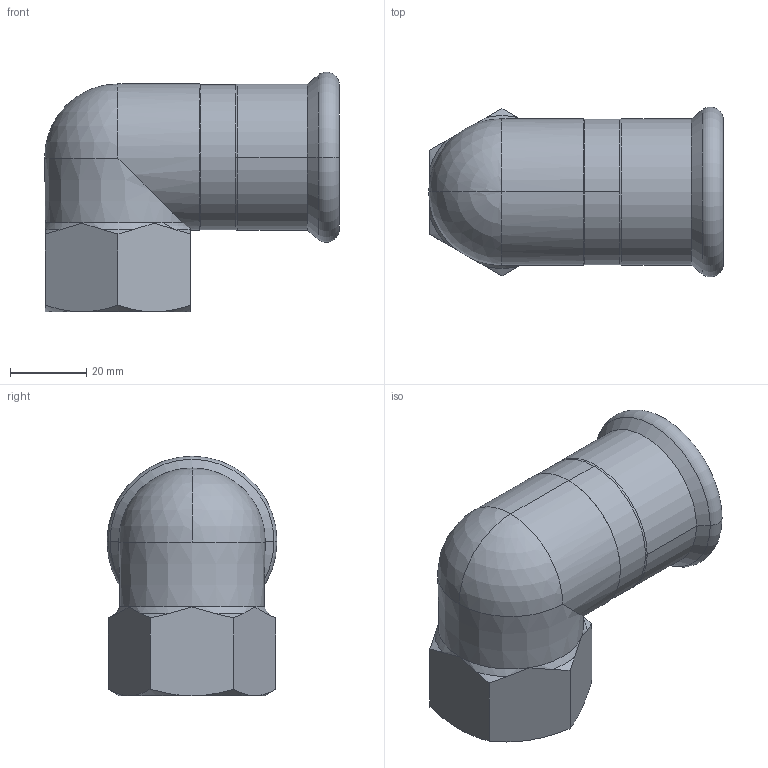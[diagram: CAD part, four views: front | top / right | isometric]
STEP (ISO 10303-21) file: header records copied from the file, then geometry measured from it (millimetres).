
FILE_DESCRIPTION(('Creo Elements/Direct Modeling STEP Export'),'2;1');
FILE_NAME('R2709_35xRp1.stp','2019-09-25T13:13:17',(''),(''),'PTC Creo Elements/Direct Modeling STEP processor for AP214 (Solid Model)','PTC Creo Elements/Direct Modeling 19.0C 15-Aug-2015 (C) Parametric Technology GmbH','');
FILE_SCHEMA(('AUTOMOTIVE_DESIGN { 1 0 10303 214 1 1 1 1 }'));
Length unit declared in the file: millimetre
Products named in the file (1): R2709_35xRp1
Bounding box: 77.2 x 44.55 x 62.77 mm (x, y, z)
Volume: 33614 mm3; surface area: 24279.5 mm2
Topology: 1 solids, 1 shells, 104 faces, 265 edges, 166 vertices
Faces by surface type: plane 44, cylinder 28, cone 17, torus 11, sphere 4
Entity records: 4403 total; most frequent: CARTESIAN_POINT 2124, ORIENTED_EDGE 522, DIRECTION 371, EDGE_CURVE 261, VERTEX_POINT 166, AXIS2_PLACEMENT_3D 134, EDGE_LOOP 119, FACE_OUTER_BOUND 104
